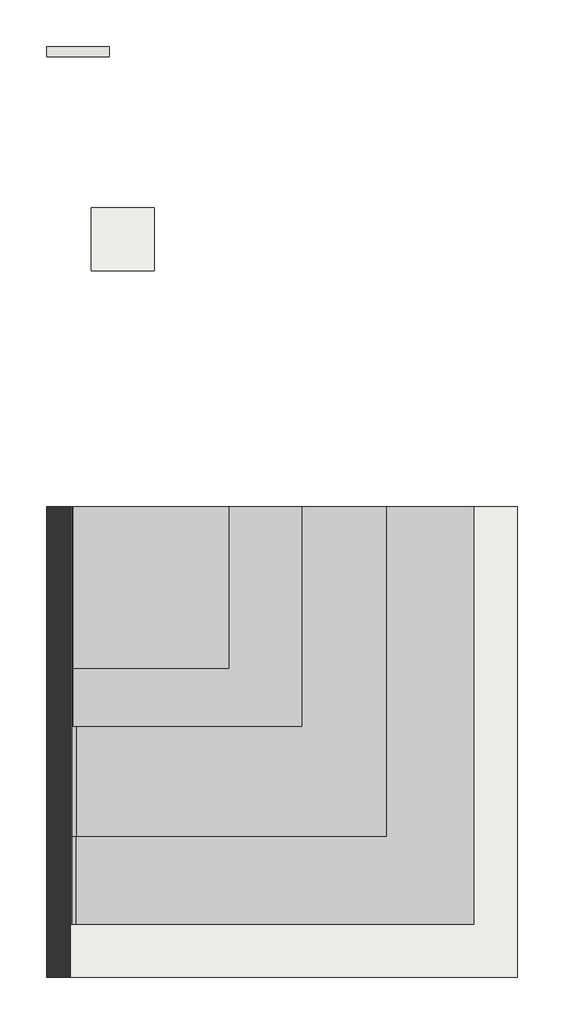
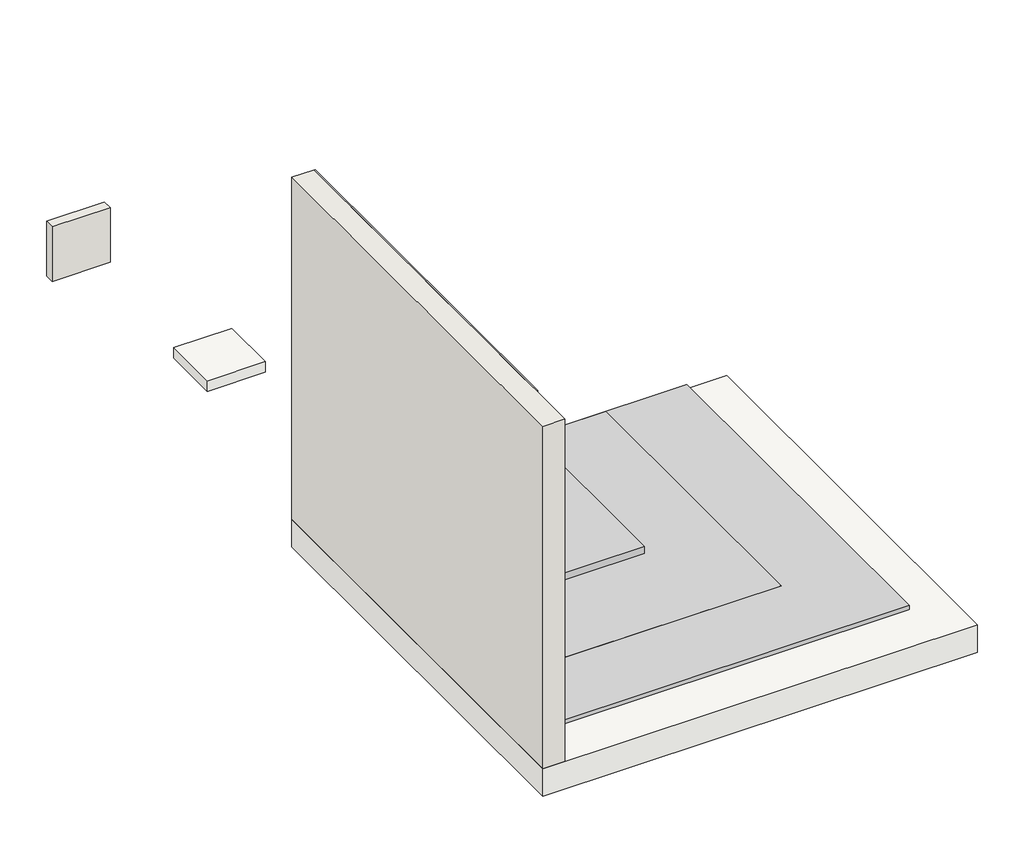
# One storey: 2 slabs, 2 walls, 1 proxy.
"""IFC4 building model written with IfcOpenShell, lengths in millimetres."""

from ifc_helpers import new_model, si_unit, frame, origin, place, context, project, spatial, polyline, outline, extrude, transform, mapped, element, save
from components import generic_models_aae9282f

model = new_model("IFC4")

# Units and contexts
model_context = context("Model", 3, world=origin())
ifc_project = project(units=[si_unit("LENGTHUNIT", "METRE", prefix="MILLI")], contexts=[model_context])

# Site, building, storey
site = spatial("IfcSite", under=ifc_project)
building = spatial("IfcBuilding", under=site)
storey = spatial("IfcBuildingStorey", under=building, Name="ARQ Térreo", Elevation=-2.523798)

# Proxy
placement = place(None, origin())
generic_models_shape = generic_models_aae9282f(model_context)
element("IfcBuildingElementProxy", 1, Name="IMPER:IMPER:433934 : IMPER:IMPER:433934", ObjectType="IMPER:IMPER:433934 : IMPER:IMPER:433934", at=placement, inside=storey, context=model_context, shape_type="MappedRepresentation", body=[
    mapped(generic_models_shape, transform((0.0, 0.0, 0.0), x_axis=(1.0, 0.0, 0.0), y_axis=(0.0, 1.0, 0.0), z_axis=(0.0, 0.0, 1.0))),
])

# Slabs
element("IfcSlab", 2, ObjectType="IMPH_EMULSÃO VIAPOL ANTIRRUIDO", at=placement, inside=storey, context=model_context, shape_type="SweptSolid", body=[
    extrude(outline(polyline([(-216.1419101, 2051.0407158), (183.8580899, 2051.0407158), (183.8580899, 1651.0407158), (-216.1419101, 1651.0407158), (-216.1419101, 2051.0407158)])), frame((0.0, 0.0, -79.523798), z_axis=(0.0, 0.0, 1.0), x_axis=(1.0, 0.0, 0.0)), (0.0, 0.0, 1.0), 77.0),
])
element("IfcSlab", 3, ObjectType="Piso:LAJE CONCRETO", at=placement, inside=storey, context=model_context, shape_type="SweptSolid", body=[
    extrude(outline(polyline([(-501.9704105, 145.8700195), (2498.0295895, 145.8700195), (2498.0295895, -2854.1299805), (-501.9704105, -2854.1299805), (-501.9704105, 145.8700195)])), frame((0.0, 0.0, -202.523798), z_axis=(0.0, 0.0, 1.0), x_axis=(1.0, 0.0, 0.0)), (0.0, 0.0, 1.0), 200.0),
])

# Walls
element("IfcWall", 4, ObjectType="Parede básica:Parede Concreto", at=placement, inside=storey, context=model_context, shape_type="SweptSolid", body=[
    extrude(outline(polyline([(-501.9704105, -2854.1299805), (-501.9704105, 145.8700195), (-351.9704105, 145.8700195), (-351.9704105, -2854.1299805), (-501.9704105, -2854.1299805)])), frame((0.0, 0.0, -2.523798), z_axis=(0.0, 0.0, 1.0), x_axis=(1.0, 0.0, 0.0)), (0.0, 0.0, 1.0), 2500.0),
])
element("IfcWall", 5, ObjectType="IMPV_EMULSÃO VIAPOL ANTIRRUIDO", at=placement, inside=storey, context=model_context, shape_type="SweptSolid", body=[
    extrude(outline(polyline([(-101.9704105, 3012.8700195), (-501.9704105, 3012.8700195), (-501.9704105, 3078.8700195), (-101.9704105, 3078.8700195), (-101.9704105, 3012.8700195)])), frame((0.0, 0.0, -2.523798), z_axis=(0.0, 0.0, 1.0), x_axis=(1.0, 0.0, 0.0)), (0.0, 0.0, 1.0), 400.0),
])

save(model, "model.ifc")
